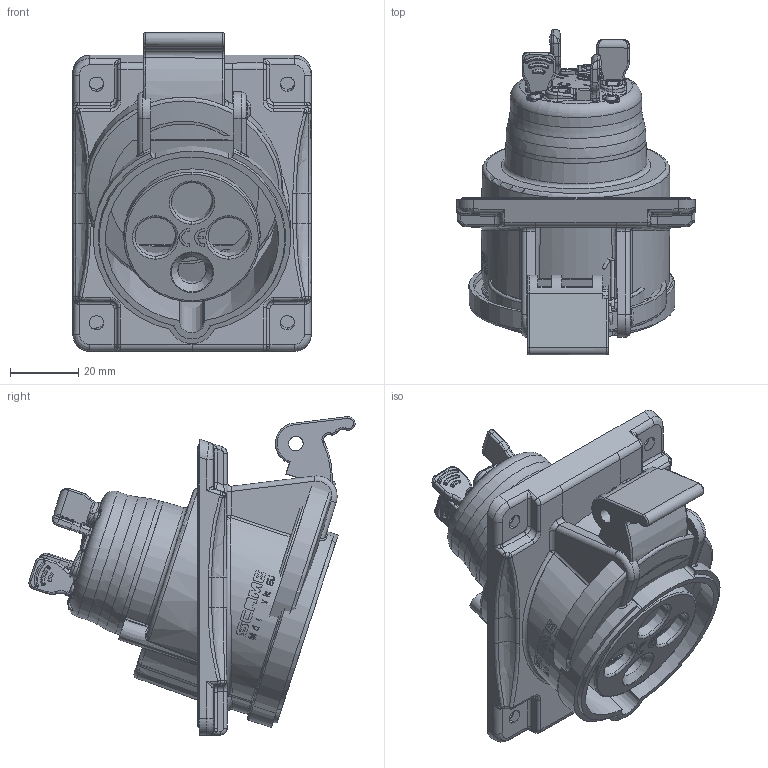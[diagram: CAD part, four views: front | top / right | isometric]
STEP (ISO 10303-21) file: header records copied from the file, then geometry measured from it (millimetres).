
FILE_DESCRIPTION(/* description */ (''),/* implementation_level */ '2;1');
FILE_NAME(/* name */ '4001805.stp',/* time_stamp */ '2017-05-04T08:56:07+02:00',/* author */ (''),/* organization */ (''),/* preprocessor_version */ 'ST-DEVELOPER v16',/* originating_system */ 'SIEMENS PLM Software NX 11.0',/* authorisation */ '');
FILE_SCHEMA (('AUTOMOTIVE_DESIGN { 1 0 10303 214 3 1 1 1 }'));
Length unit declared in the file: millimetre
Products named in the file (1): 4001805_LINKEDEXT_jt
Bounding box: 70 x 95.75 x 93.59 mm (x, y, z)
Surface area: 81344.6 mm2 (no closed solid volume)
Topology: 0 solids, 118 shells, 1262 faces, 4489 edges, 3178 vertices
Faces by surface type: bspline 454, cylinder 430, plane 203, torus 70, cone 54, sphere 28, extrusion 15, revolution 8
Full cylindrical faces by diameter (mm): 0.998 x3, 2.4 x4, 4.25 x3, 4.3 x2, 5 x1, 41.2 x1
Entity records: 85599 total; most frequent: CARTESIAN_POINT 44201, ORIENTED_EDGE 6413, DIRECTION 5606, EDGE_CURVE 4355, VERTEX_POINT 3161, AXIS2_PLACEMENT_3D 2143, B_SPLINE_CURVE_WITH_KNOTS 1724, EDGE_LOOP 1356
